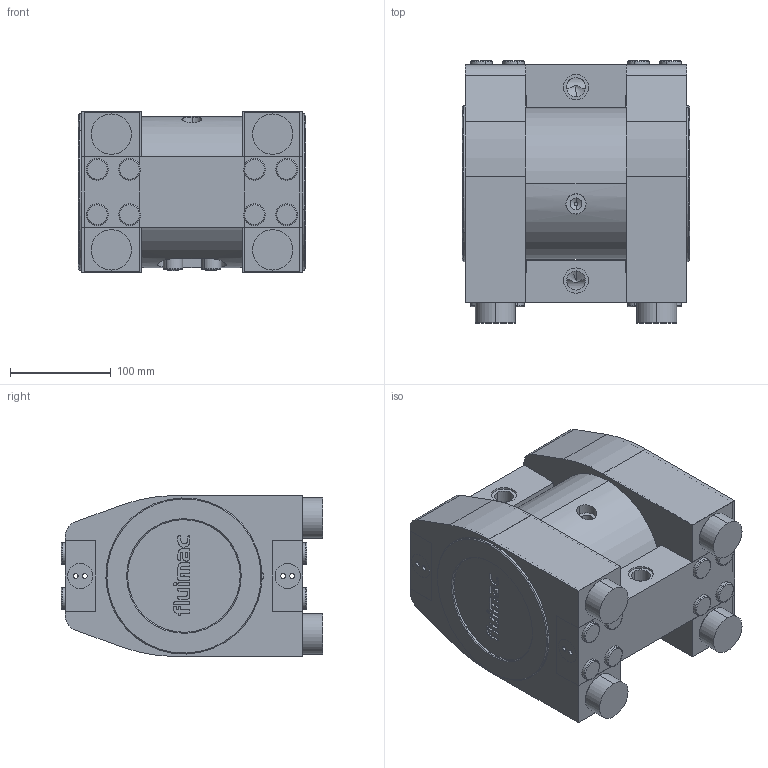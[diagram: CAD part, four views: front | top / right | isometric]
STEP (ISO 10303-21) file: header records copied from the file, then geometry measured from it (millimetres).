
FILE_DESCRIPTION (( 'STEP AP203' ), '1' );
FILE_NAME ('LOTUS 15.STEP', '2024-06-19T10:31:23', ( '' ), ( '' ), 'SwSTEP 2.0', 'SolidWorks 2023', '' );
FILE_SCHEMA (( 'CONFIG_CONTROL_DESIGN' ));
Length unit declared in the file: millimetre
Products named in the file (1): LOTUS 15
Bounding box: 226 x 260 x 160 mm (x, y, z)
Volume: 1288575.1 mm3; surface area: 625001.1 mm2
Topology: 39 solids, 39 shells, 1031 faces, 2561 edges, 1682 vertices
Faces by surface type: plane 445, cylinder 410, bspline 90, torus 52, cone 26, sphere 8
Entity records: 35168 total; most frequent: CARTESIAN_POINT 10147, DIRECTION 5201, ORIENTED_EDGE 5114, EDGE_CURVE 2557, AXIS2_PLACEMENT_3D 1920, VERTEX_POINT 1682, LINE 1361, VECTOR 1361
